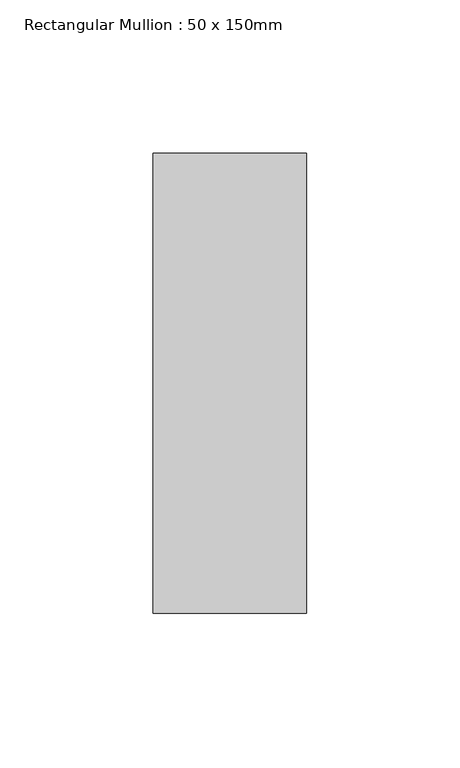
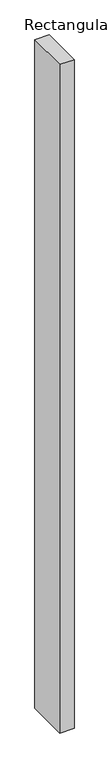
"""IFC4 building model written with IfcOpenShell, lengths in millimetres: member geometry, Rectangular Mullion : 50 x 150mm."""

from ifc_helpers import new_model, si_unit, frame, origin, place, context, project, spatial, polyline, outline, extrude, source, transform, mapped, element, save


def rectangular_mullion_50_x_150mm_802e1733(model_context):
    return source(origin(), model_context, "Body", "SweptSolid", [
        extrude(outline(polyline([(0.0, 75.0), (0.0, -75.0), (-50.0, -75.0), (-50.0, 75.0), (0.0, 75.0)])), frame((0.0, 0.0, -2467.6897376), z_axis=(0.0, 0.0, 1.0), x_axis=(1.0, 0.0, 0.0)), (0.0, 0.0, 1.0), 2467.6897376),
    ])


if __name__ == "__main__":
    model = new_model("IFC4")
    model_context = context("Model", 3, world=origin())
    ifc_project = project(units=[si_unit("LENGTHUNIT", "METRE", prefix="MILLI")], contexts=[model_context])
    site = spatial("IfcSite", under=ifc_project)
    building = spatial("IfcBuilding", under=site)
    placement = place(None, origin())
    rectangular_mullion_50_x_150mm_shape = rectangular_mullion_50_x_150mm_802e1733(model_context)
    element("IfcMember", 1, ObjectType="Rectangular Mullion : 50 x 150mm", at=placement, inside=building, context=model_context, shape_type="MappedRepresentation", body=[
        mapped(rectangular_mullion_50_x_150mm_shape, transform((0.0, 0.0, 0.0), x_axis=(1.0, 0.0, 0.0), y_axis=(0.0, 1.0, 0.0), z_axis=(0.0, 0.0, 1.0))),
    ])
    save(model, "model.ifc")
